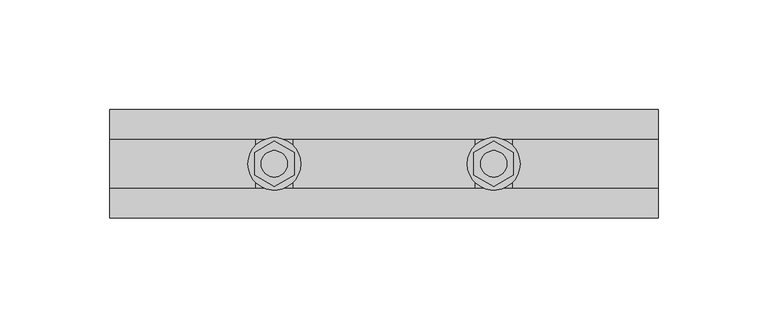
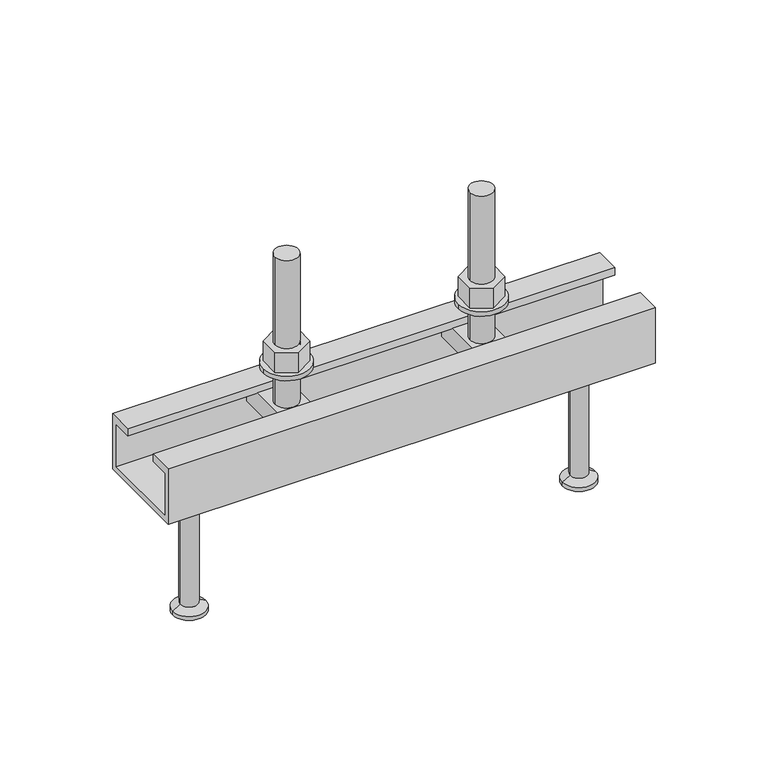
"""IFC4 building model written with IfcOpenShell, lengths in millimetres: fastener geometry, JTA-W JORDAHL® AnchorChannels : JTA-W L=250 mm."""

from ifc_helpers import new_model, si_unit, point, frame, frame_2d, origin, place, context, project, spatial, polyline, circle_curve, trimmed, segment, composite_curve, outline, extrude, source, transform, mapped, element, save
from ifc_brep_helpers import plane_surface, cylinder_surface, revolved_surface, advanced_brep


def fastener_759e0575(model_context):
    return source(origin(), model_context, "Body", "SolidModel", [
        extrude(outline(polyline([(175.0, -10.3923048), (166.0, -5.1961524), (166.0, 5.1961524), (175.0, 10.3923048), (184.0, 5.1961524), (184.0, -5.1961524), (175.0, -10.3923048)]), holes=[composite_curve([segment(trimmed(circle_curve(frame_2d((175.0, 0.0)), 6.0), [point((169.0, 0.0))], [point((181.0, 0.0))], True, "CARTESIAN"), True, "CONTINUOUS"), segment(trimmed(circle_curve(frame_2d((175.0, 0.0)), 6.0), [point((181.0, 0.0))], [point((169.0, 0.0))], True, "CARTESIAN"), True, "CONTINUOUS")], self_intersect=False)]), frame((0.0, 0.0, 17.5), z_axis=(0.0, 0.0, 1.0), x_axis=(1.0, 0.0, 0.0)), (0.0, 0.0, 1.0), 10.8),
        extrude(outline(composite_curve([segment(trimmed(circle_curve(frame_2d((175.0, 0.0)), 12.0), [point((163.0, 0.0))], [point((187.0, 0.0))], False, "CARTESIAN"), True, "CONTINUOUS"), segment(trimmed(circle_curve(frame_2d((175.0, 0.0)), 12.0), [point((187.0, 0.0))], [point((163.0, 0.0))], False, "CARTESIAN"), True, "CONTINUOUS")], self_intersect=False), holes=[composite_curve([segment(trimmed(circle_curve(frame_2d((175.0, 0.0)), 6.5), [point((168.5, 0.0))], [point((181.5, 0.0))], True, "CARTESIAN"), True, "CONTINUOUS"), segment(trimmed(circle_curve(frame_2d((175.0, 0.0)), 6.5), [point((181.5, 0.0))], [point((168.5, 0.0))], True, "CARTESIAN"), True, "CONTINUOUS")], self_intersect=False)]), frame((0.0, 0.0, 15.0), z_axis=(0.0, 0.0, 1.0), x_axis=(1.0, 0.0, 0.0)), (0.0, 0.0, 1.0), 2.5),
        extrude(outline(polyline([(75.0, -10.3923048), (66.0, -5.1961524), (66.0, 5.1961524), (75.0, 10.3923048), (84.0, 5.1961524), (84.0, -5.1961524), (75.0, -10.3923048)]), holes=[composite_curve([segment(trimmed(circle_curve(frame_2d((75.0, 0.0)), 6.0), [point((69.0, 0.0))], [point((81.0, 0.0))], True, "CARTESIAN"), True, "CONTINUOUS"), segment(trimmed(circle_curve(frame_2d((75.0, 0.0)), 6.0), [point((81.0, 0.0))], [point((69.0, 0.0))], True, "CARTESIAN"), True, "CONTINUOUS")], self_intersect=False)]), frame((0.0, 0.0, 17.5), z_axis=(0.0, 0.0, 1.0), x_axis=(1.0, 0.0, 0.0)), (0.0, 0.0, 1.0), 10.8),
        extrude(outline(composite_curve([segment(trimmed(circle_curve(frame_2d((75.0, 0.0)), 12.0), [point((63.0, 0.0))], [point((87.0, 0.0))], False, "CARTESIAN"), True, "CONTINUOUS"), segment(trimmed(circle_curve(frame_2d((75.0, 0.0)), 12.0), [point((87.0, 0.0))], [point((63.0, 0.0))], False, "CARTESIAN"), True, "CONTINUOUS")], self_intersect=False), holes=[composite_curve([segment(trimmed(circle_curve(frame_2d((75.0, 0.0)), 6.5), [point((68.5, 0.0))], [point((81.5, 0.0))], True, "CARTESIAN"), True, "CONTINUOUS"), segment(trimmed(circle_curve(frame_2d((75.0, 0.0)), 6.5), [point((81.5, 0.0))], [point((68.5, 0.0))], True, "CARTESIAN"), True, "CONTINUOUS")], self_intersect=False)]), frame((0.0, 0.0, 15.0), z_axis=(0.0, 0.0, 1.0), x_axis=(1.0, 0.0, 0.0)), (0.0, 0.0, 1.0), 2.5),
        advanced_brep(
        [(183.5, -20.7, -4.0), (183.5, -20.7, -14.0), (183.5, 20.7, -14.0), (183.5, 20.7, -4.0), (166.5, -20.7, -4.0), (166.5, 20.7, -4.0), (166.5, 20.7, -14.0), (166.5, -20.7, -14.0), (181.0, 0.0, -4.0), (169.0, 0.0, -4.0), (169.0, 0.0, 76.0), (181.0, 0.0, 76.0)],
        [
            (0, 1),
            (1, 2),
            (2, 3),
            (3, 0),
            (4, 5),
            (5, 6),
            (6, 7),
            (7, 4),
            (3, 5),
            (4, 0),
            (8, 9, circle_curve(frame((175.0, 0.0, -4.0), z_axis=(0.0, 0.0, -1.0), x_axis=(1.0, 0.0, 0.0)), 6.0)),
            (9, 8, circle_curve(frame((175.0, 0.0, -4.0), z_axis=(0.0, 0.0, -1.0), x_axis=(1.0, 0.0, 0.0)), 6.0)),
            (2, 6),
            (1, 7),
            (10, 11, circle_curve(frame((175.0, 0.0, 76.0), z_axis=(0.0, 0.0, 1.0), x_axis=(1.0, 0.0, 0.0)), 6.0)),
            (11, 10, circle_curve(frame((175.0, 0.0, 76.0), z_axis=(0.0, 0.0, 1.0), x_axis=(1.0, 0.0, 0.0)), 6.0)),
            (11, 8),
            (9, 10),
        ],
        [
            plane_surface(frame((183.5, 20.7, -4.0), z_axis=(1.0, 0.0, 0.0), x_axis=(0.0, 1.0, 0.0))),
            plane_surface(frame((166.5, 20.7, -4.0), z_axis=(-1.0, 0.0, 0.0), x_axis=(0.0, -1.0, 0.0))),
            plane_surface(frame((183.5, -20.7, -4.0), z_axis=(0.0, 0.0, 1.0), x_axis=(-1.0, 0.0, 0.0))),
            plane_surface(frame((183.5, 20.7, -4.0), z_axis=(0.0, 1.0, 0.0), x_axis=(-1.0, 0.0, 0.0))),
            plane_surface(frame((183.5, 20.7, -14.0), z_axis=(0.0, 0.0, -1.0), x_axis=(-1.0, 0.0, 0.0))),
            plane_surface(frame((183.5, -20.7, -14.0), z_axis=(0.0, -1.0, 0.0), x_axis=(-1.0, 0.0, 0.0))),
            plane_surface(frame((181.0, 0.0, 76.0), z_axis=(0.0, 0.0, 1.0), x_axis=(0.0, -1.0, 0.0))),
            cylinder_surface(frame((175.0, 0.0, -4.0), z_axis=(0.0, 0.0, 1.0), x_axis=(1.0, 0.0, 0.0)), 6.0),
        ],
        [
            (0, [[1, 2, 3, 4]]),
            (1, [[5, 6, 7, 8]]),
            (2, [[9, -5, 10, -4], [11, 12]]),
            (3, [[13, -6, -9, -3]]),
            (4, [[14, -7, -13, -2]]),
            (5, [[-10, -8, -14, -1]]),
            (6, [[15, 16]]),
            (7, [[17, -12, 18, -16]]),
            (7, [[-18, -11, -17, -15]]),
        ],
    ),
        advanced_brep(
        [(83.5, -20.7, -4.0), (83.5, -20.7, -14.0), (83.5, 20.7, -14.0), (83.5, 20.7, -4.0), (66.5, -20.7, -4.0), (66.5, 20.7, -4.0), (66.5, 20.7, -14.0), (66.5, -20.7, -14.0), (81.0, 0.0, -4.0), (69.0, 0.0, -4.0), (69.0, 0.0, 76.0), (81.0, 0.0, 76.0)],
        [
            (0, 1),
            (1, 2),
            (2, 3),
            (3, 0),
            (4, 5),
            (5, 6),
            (6, 7),
            (7, 4),
            (3, 5),
            (4, 0),
            (8, 9, circle_curve(frame((75.0, 0.0, -4.0), z_axis=(0.0, 0.0, -1.0), x_axis=(1.0, 0.0, 0.0)), 6.0)),
            (9, 8, circle_curve(frame((75.0, 0.0, -4.0), z_axis=(0.0, 0.0, -1.0), x_axis=(1.0, 0.0, 0.0)), 6.0)),
            (2, 6),
            (1, 7),
            (10, 11, circle_curve(frame((75.0, 0.0, 76.0), z_axis=(0.0, 0.0, 1.0), x_axis=(1.0, 0.0, 0.0)), 6.0)),
            (11, 10, circle_curve(frame((75.0, 0.0, 76.0), z_axis=(0.0, 0.0, 1.0), x_axis=(1.0, 0.0, 0.0)), 6.0)),
            (11, 8),
            (9, 10),
        ],
        [
            plane_surface(frame((83.5, 20.7, -4.0), z_axis=(1.0, 0.0, 0.0), x_axis=(0.0, 1.0, 0.0))),
            plane_surface(frame((66.5, 20.7, -4.0), z_axis=(-1.0, 0.0, 0.0), x_axis=(0.0, -1.0, 0.0))),
            plane_surface(frame((83.5, -20.7, -4.0), z_axis=(0.0, 0.0, 1.0), x_axis=(-1.0, 0.0, 0.0))),
            plane_surface(frame((83.5, 20.7, -4.0), z_axis=(0.0, 1.0, 0.0), x_axis=(-1.0, 0.0, 0.0))),
            plane_surface(frame((83.5, 20.7, -14.0), z_axis=(0.0, 0.0, -1.0), x_axis=(-1.0, 0.0, 0.0))),
            plane_surface(frame((83.5, -20.7, -14.0), z_axis=(0.0, -1.0, 0.0), x_axis=(-1.0, 0.0, 0.0))),
            plane_surface(frame((81.0, 0.0, 76.0), z_axis=(0.0, 0.0, 1.0), x_axis=(0.0, -1.0, 0.0))),
            cylinder_surface(frame((75.0, 0.0, -4.0), z_axis=(0.0, 0.0, 1.0), x_axis=(1.0, 0.0, 0.0)), 6.0),
        ],
        [
            (0, [[1, 2, 3, 4]]),
            (1, [[5, 6, 7, 8]]),
            (2, [[9, -5, 10, -4], [11, 12]]),
            (3, [[13, -6, -9, -3]]),
            (4, [[14, -7, -13, -2]]),
            (5, [[-10, -8, -14, -1]]),
            (6, [[15, 16]]),
            (7, [[17, -12, 18, -16]]),
            (7, [[-18, -11, -17, -15]]),
        ],
    ),
        advanced_brep(
        [(225.0, 0.0, -30.0), (211.5, 0.0, -30.0), (238.5, 0.0, -30.0), (216.5, 0.0, -100.0), (225.0, 0.0, -100.0), (233.5, 0.0, -100.0), (216.5, 0.0, -98.0), (233.5, 0.0, -98.0), (220.5, 0.0, -95.6905989), (229.5, 0.0, -95.6905989), (220.5, 0.0, -32.5), (229.5, 0.0, -32.5)],
        [
            (0, 1),
            (1, 2, circle_curve(frame((225.0, 0.0, -30.0), z_axis=(0.0, 0.0, 1.0), x_axis=(1.0, 0.0, 0.0)), 13.5)),
            (2, 0),
            (2, 1, circle_curve(frame((225.0, 0.0, -30.0), z_axis=(0.0, 0.0, 1.0), x_axis=(1.0, 0.0, 0.0)), 13.5)),
            (3, 4),
            (4, 5),
            (5, 3, circle_curve(frame((225.0, 0.0, -100.0), z_axis=(0.0, 0.0, -1.0), x_axis=(1.0, 0.0, 0.0)), 8.5)),
            (3, 5, circle_curve(frame((225.0, 0.0, -100.0), z_axis=(0.0, 0.0, -1.0), x_axis=(1.0, 0.0, 0.0)), 8.5)),
            (6, 3),
            (5, 7),
            (7, 6, circle_curve(frame((225.0, 0.0, -98.0), z_axis=(0.0, 0.0, -1.0), x_axis=(1.0, 0.0, 0.0)), 8.5)),
            (6, 7, circle_curve(frame((225.0, 0.0, -98.0), z_axis=(0.0, 0.0, -1.0), x_axis=(1.0, 0.0, 0.0)), 8.5)),
            (8, 6),
            (7, 9),
            (9, 8, circle_curve(frame((225.0, 0.0, -95.6905989), z_axis=(0.0, 0.0, -1.0), x_axis=(1.0, 0.0, 0.0)), 4.5)),
            (8, 9, circle_curve(frame((225.0, 0.0, -95.6905989), z_axis=(0.0, 0.0, -1.0), x_axis=(1.0, 0.0, 0.0)), 4.5)),
            (10, 8),
            (9, 11),
            (11, 10, circle_curve(frame((225.0, 0.0, -32.5), z_axis=(0.0, 0.0, -1.0), x_axis=(1.0, 0.0, 0.0)), 4.5)),
            (10, 11, circle_curve(frame((225.0, 0.0, -32.5), z_axis=(0.0, 0.0, -1.0), x_axis=(1.0, 0.0, 0.0)), 4.5)),
            (1, 10),
            (11, 2),
        ],
        [
            plane_surface(frame((225.0, 0.0, -30.0), z_axis=(0.0, 0.0, 1.0), x_axis=(1.0, 0.0, 0.0))),
            plane_surface(frame((225.0, 0.0, -100.0), z_axis=(0.0, 0.0, -1.0), x_axis=(1.0, 0.0, 0.0))),
            cylinder_surface(frame((225.0, 0.0, 2284.3150031), z_axis=(0.0, 0.0, 1.0), x_axis=(1.0, 0.0, 0.0)), 8.5),
            revolved_surface(polyline([(233.5, 0.0, -98.0), (229.5, 0.0, -95.6905989)]), (225.0, 0.0, 2284.3150031), (0.0, 0.0, 1.0)),
            cylinder_surface(frame((225.0, 0.0, 2284.3150031), z_axis=(0.0, 0.0, 1.0), x_axis=(1.0, 0.0, 0.0)), 4.5),
            revolved_surface(polyline([(229.5, 0.0, -32.5), (238.5, 0.0, -30.0)]), (225.0, 0.0, 2284.3150031), (0.0, 0.0, 1.0)),
        ],
        [
            (0, [[1, 2, 3]]),
            (0, [[-3, 4, -1]]),
            (1, [[5, 6, 7]]),
            (1, [[-6, -5, 8]]),
            (2, [[9, -7, 10, 11]]),
            (2, [[-10, -8, -9, 12]]),
            (3, [[13, -11, 14, 15]]),
            (3, [[-14, -12, -13, 16]]),
            (4, [[17, -15, 18, 19]]),
            (4, [[-18, -16, -17, 20]]),
            (5, [[21, -19, 22, -2]]),
            (5, [[-22, -20, -21, -4]]),
        ],
    ),
        advanced_brep(
        [(25.0, 0.0, -30.0), (11.5, 0.0, -30.0), (38.5, 0.0, -30.0), (16.5, 0.0, -100.0), (25.0, 0.0, -100.0), (33.5, 0.0, -100.0), (16.5, 0.0, -98.0), (33.5, 0.0, -98.0), (20.5, 0.0, -95.6905989), (29.5, 0.0, -95.6905989), (20.5, 0.0, -32.5), (29.5, 0.0, -32.5)],
        [
            (0, 1),
            (1, 2, circle_curve(frame((25.0, 0.0, -30.0), z_axis=(0.0, 0.0, 1.0), x_axis=(1.0, 0.0, 0.0)), 13.5)),
            (2, 0),
            (2, 1, circle_curve(frame((25.0, 0.0, -30.0), z_axis=(0.0, 0.0, 1.0), x_axis=(1.0, 0.0, 0.0)), 13.5)),
            (3, 4),
            (4, 5),
            (5, 3, circle_curve(frame((25.0, 0.0, -100.0), z_axis=(0.0, 0.0, -1.0), x_axis=(1.0, 0.0, 0.0)), 8.5)),
            (3, 5, circle_curve(frame((25.0, 0.0, -100.0), z_axis=(0.0, 0.0, -1.0), x_axis=(1.0, 0.0, 0.0)), 8.5)),
            (6, 3),
            (5, 7),
            (7, 6, circle_curve(frame((25.0, 0.0, -98.0), z_axis=(0.0, 0.0, -1.0), x_axis=(1.0, 0.0, 0.0)), 8.5)),
            (6, 7, circle_curve(frame((25.0, 0.0, -98.0), z_axis=(0.0, 0.0, -1.0), x_axis=(1.0, 0.0, 0.0)), 8.5)),
            (8, 6),
            (7, 9),
            (9, 8, circle_curve(frame((25.0, 0.0, -95.6905989), z_axis=(0.0, 0.0, -1.0), x_axis=(1.0, 0.0, 0.0)), 4.5)),
            (8, 9, circle_curve(frame((25.0, 0.0, -95.6905989), z_axis=(0.0, 0.0, -1.0), x_axis=(1.0, 0.0, 0.0)), 4.5)),
            (10, 8),
            (9, 11),
            (11, 10, circle_curve(frame((25.0, 0.0, -32.5), z_axis=(0.0, 0.0, -1.0), x_axis=(1.0, 0.0, 0.0)), 4.5)),
            (10, 11, circle_curve(frame((25.0, 0.0, -32.5), z_axis=(0.0, 0.0, -1.0), x_axis=(1.0, 0.0, 0.0)), 4.5)),
            (1, 10),
            (11, 2),
        ],
        [
            plane_surface(frame((25.0, 0.0, -30.0), z_axis=(0.0, 0.0, 1.0), x_axis=(1.0, 0.0, 0.0))),
            plane_surface(frame((25.0, 0.0, -100.0), z_axis=(0.0, 0.0, -1.0), x_axis=(1.0, 0.0, 0.0))),
            cylinder_surface(frame((25.0, 0.0, 2284.3150031), z_axis=(0.0, 0.0, 1.0), x_axis=(1.0, 0.0, 0.0)), 8.5),
            revolved_surface(polyline([(33.5, 0.0, -98.0), (29.5, 0.0, -95.6905989)]), (25.0, 0.0, 2284.3150031), (0.0, 0.0, 1.0)),
            cylinder_surface(frame((25.0, 0.0, 2284.3150031), z_axis=(0.0, 0.0, 1.0), x_axis=(1.0, 0.0, 0.0)), 4.5),
            revolved_surface(polyline([(29.5, 0.0, -32.5), (38.5, 0.0, -30.0)]), (25.0, 0.0, 2284.3150031), (0.0, 0.0, 1.0)),
        ],
        [
            (0, [[1, 2, 3]]),
            (0, [[-3, 4, -1]]),
            (1, [[5, 6, 7]]),
            (1, [[-6, -5, 8]]),
            (2, [[9, -7, 10, 11]]),
            (2, [[-10, -8, -9, 12]]),
            (3, [[13, -11, 14, 15]]),
            (3, [[-14, -12, -13, 16]]),
            (4, [[17, -15, 18, 19]]),
            (4, [[-18, -16, -17, 20]]),
            (5, [[21, -19, 22, -2]]),
            (5, [[-22, -20, -21, -4]]),
        ],
    ),
        extrude(outline(polyline([(-24.75, 0.0), (-11.25, 0.0), (-11.25, -4.0), (-21.95, -4.0), (-21.95, -27.2), (21.95, -27.2), (21.95, -4.0), (11.25, -4.0), (11.25, 0.0), (24.75, 0.0), (24.75, -30.0), (-24.75, -30.0), (-24.75, 0.0)])), frame((0.0, 0.0, 0.0), z_axis=(1.0, 0.0, 0.0), x_axis=(0.0, 1.0, 0.0)), (0.0, 0.0, 1.0), 250.0),
    ])


if __name__ == "__main__":
    model = new_model("IFC4")
    model_context = context("Model", 3, world=origin())
    ifc_project = project(units=[si_unit("LENGTHUNIT", "METRE", prefix="MILLI")], contexts=[model_context])
    site = spatial("IfcSite", under=ifc_project)
    building = spatial("IfcBuilding", under=site)
    placement = place(None, origin())
    fastener_shape = fastener_759e0575(model_context)
    element("IfcFastener", 1, ObjectType="JTA-W JORDAHL® AnchorChannels : JTA-W L=250 mm", at=placement, inside=building, context=model_context, shape_type="MappedRepresentation", body=[
        mapped(fastener_shape, transform((0.0, 0.0, 0.0), x_axis=(1.0, 0.0, 0.0), y_axis=(0.0, 1.0, 0.0), z_axis=(0.0, 0.0, 1.0))),
    ])
    save(model, "model.ifc")
